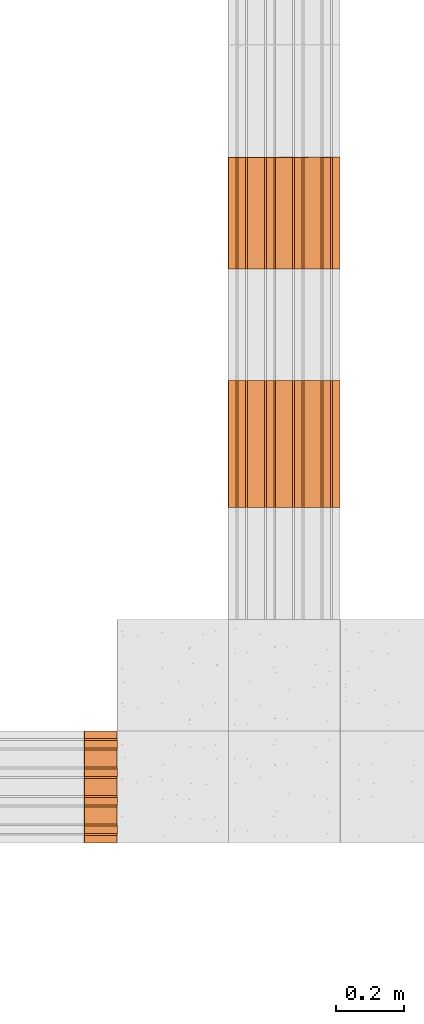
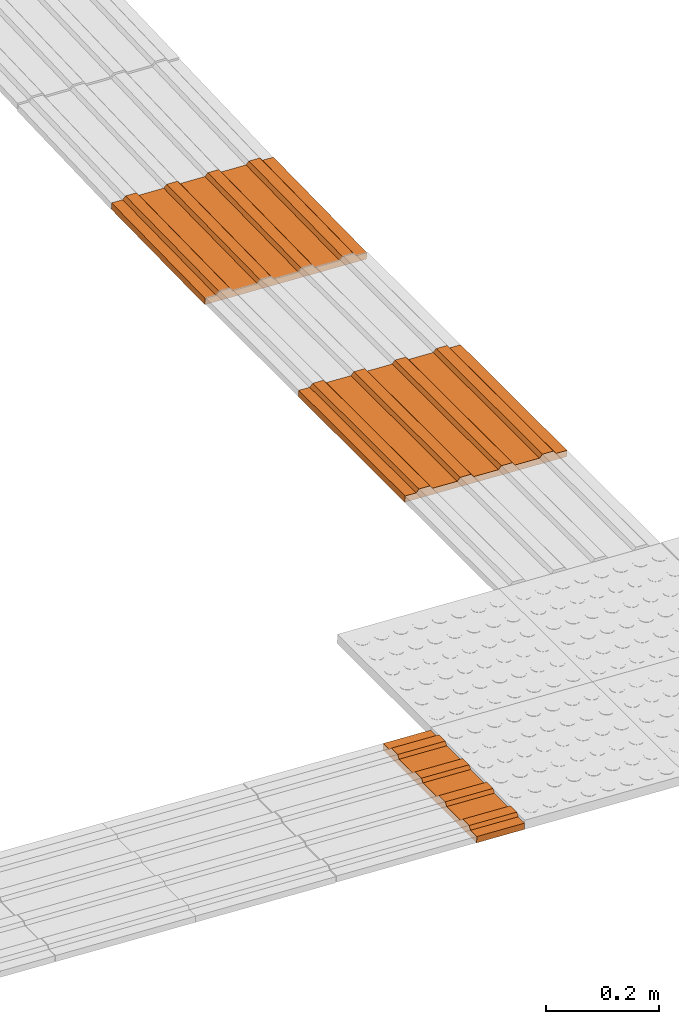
# One storey, part 229 of 237: 3 proxies.
"""IFC2X3 building model written with IfcOpenShell, lengths in millimetres."""

from ifc_helpers import new_model, entity, si_unit, converted_unit, derived_unit, money_unit, direction, frame, origin_with_axes, place, context, subcontext, project, spatial, open_shell, surface_model, type_object, element, save


model = new_model("IFC2X3")

# Units and contexts
model_context = context("Model", 3, precision=0.01, world=origin_with_axes(), true_north=direction((0.0, 1.0)))
body_context = subcontext(model_context, "Body", "Model", "MODEL_VIEW")
ifc_project = project(units=[si_unit("LENGTHUNIT", "METRE", prefix="MILLI"), si_unit("AREAUNIT", "SQUARE_METRE"), si_unit("VOLUMEUNIT", "CUBIC_METRE"), converted_unit("PLANEANGLEUNIT", "DEGREE", entity("IfcPlaneAngleMeasure", 0.0174532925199), si_unit("PLANEANGLEUNIT", "RADIAN"), dimensions=[0, 0, 0, 0, 0, 0, 0]), money_unit("USD"), converted_unit("TIMEUNIT", "Year", entity("IfcTimeMeasure", 31556926.0), si_unit("TIMEUNIT", "SECOND"), dimensions=[0, 0, 1, 0, 0, 0, 0]), si_unit("MASSUNIT", "GRAM", prefix="KILO"), si_unit("THERMODYNAMICTEMPERATUREUNIT", "DEGREE_CELSIUS"), si_unit("LUMINOUSINTENSITYUNIT", "LUMEN"), si_unit("ENERGYUNIT", "JOULE", prefix="MEGA"), derived_unit("THERMALCONDUCTANCEUNIT", [(si_unit("POWERUNIT", "WATT"), 1), (si_unit("LENGTHUNIT", "METRE"), -1), (si_unit("THERMODYNAMICTEMPERATUREUNIT", "KELVIN"), -1)]), derived_unit("SPECIFICHEATCAPACITYUNIT", [(si_unit("ENERGYUNIT", "JOULE"), 1), (si_unit("MASSUNIT", "GRAM", prefix="KILO"), -1), (si_unit("THERMODYNAMICTEMPERATUREUNIT", "KELVIN"), -1)]), derived_unit("MASSDENSITYUNIT", [(si_unit("MASSUNIT", "GRAM", prefix="KILO"), 1), (si_unit("VOLUMEUNIT", "CUBIC_METRE"), -1)])], contexts=[model_context])

# Site, building, storey
site_placement = place(None, origin_with_axes())
site = spatial("IfcSite", under=ifc_project, at=site_placement, Name="Local", CompositionType="ELEMENT")
building_placement = place(site_placement, origin_with_axes())
building = spatial("IfcBuilding", under=site, at=building_placement, Name="Construção", CompositionType="ELEMENT")
storey_placement = place(building_placement, origin_with_axes())
storey = spatial("IfcBuildingStorey", under=building, at=storey_placement, Name="Pavimento Térreo", CompositionType="ELEMENT", Elevation=0.0)

# Proxies
building_element_proxy_type = type_object("IfcBuildingElementProxyType", Name="Piso Direcional 27", PredefinedType="NOTDEFINED")
proxy_1_placement = place(storey_placement, frame((134866.285313, 10833.9341536, -7987.73027117), z_axis=(0.0, 0.0, 1.0), x_axis=(-1.0, 0.0, 0.0)))
element("IfcBuildingElementProxy", 1, at=proxy_1_placement, inside=storey, type_object=building_element_proxy_type, Name="Objeto-0055", context=body_context, shape_type="SurfaceModel", body=[
    surface_model("IfcShellBasedSurfaceModel", [(-0.210134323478, -47.3074862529, 4.02303628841), (96.8437110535, -47.3074862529, 9.09242733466), (96.4959666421, -41.7084356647, 15.7500183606), (-0.557878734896, -41.7084356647, 10.6806273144)], [open_shell([[[0, 1, 2, 3]]])]),
    surface_model("IfcShellBasedSurfaceModel", [(97.5391998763, -153.689447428, -4.22275471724), (97.5391998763, 176.654537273, -4.22275471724), (96.8437110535, 176.654537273, 9.09242733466), (96.8437110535, 154.258334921, 9.09242733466), (96.4959666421, 148.659284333, 15.7500183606), (96.4959666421, 126.26308198, 15.7500183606), (96.8437110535, 120.664031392, 9.09242733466), (96.8437110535, 70.2725760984, 9.09242733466), (96.4959666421, 64.6735255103, 15.7500183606), (96.4959666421, 42.2773231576, 15.7500183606), (96.8437110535, 36.6782725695, 9.09242733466), (96.8437110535, -13.7131827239, 9.09242733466), (96.4959666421, -19.3122333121, 15.7500183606), (96.4959666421, -41.7084356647, 15.7500183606), (96.8437110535, -47.3074862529, 9.09242733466), (96.8437110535, -97.6989415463, 9.09242733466), (96.4959666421, -103.297992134, 15.7500183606), (96.4959666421, -125.694194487, 15.7500183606), (96.8437110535, -131.293245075, 9.09242733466), (96.8437110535, -153.689447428, 9.09242733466)], [open_shell([[[0, 1, 2, 3, 4, 5, 6, 7, 8, 9, 10, 11, 12, 13, 14, 15, 16, 17, 18, 19]]])]),
    surface_model("IfcShellBasedSurfaceModel", [(-0.557878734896, -19.3122333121, 10.6806273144), (96.4959666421, -19.3122333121, 15.7500183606), (96.8437110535, -13.7131827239, 9.09242733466), (-0.210134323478, -13.7131827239, 4.02303628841)], [open_shell([[[0, 1, 2, 3]]])]),
    surface_model("IfcShellBasedSurfaceModel", [(-0.557878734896, -103.297992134, 10.6806273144), (96.4959666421, -103.297992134, 15.7500183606), (96.8437110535, -97.6989415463, 9.09242733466), (-0.210134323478, -97.6989415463, 4.02303628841)], [open_shell([[[0, 1, 2, 3]]])]),
    surface_model("IfcShellBasedSurfaceModel", [(-0.557878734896, 64.6735255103, 10.6806273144), (96.4959666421, 64.6735255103, 15.7500183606), (96.8437110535, 70.2725760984, 9.09242733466), (-0.210134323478, 70.2725760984, 4.02303628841)], [open_shell([[[0, 1, 2, 3]]])]),
    surface_model("IfcShellBasedSurfaceModel", [(-0.210134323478, 36.6782725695, 4.02303628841), (96.8437110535, 36.6782725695, 9.09242733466), (96.4959666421, 42.2773231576, 15.7500183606), (-0.557878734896, 42.2773231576, 10.6806273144)], [open_shell([[[0, 1, 2, 3]]])]),
    surface_model("IfcShellBasedSurfaceModel", [(-0.210134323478, -131.293245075, 4.02303628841), (96.8437110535, -131.293245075, 9.09242733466), (96.4959666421, -125.694194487, 15.7500183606), (-0.557878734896, -125.694194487, 10.6806273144)], [open_shell([[[0, 1, 2, 3]]])]),
    surface_model("IfcShellBasedSurfaceModel", [(-0.210134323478, 176.654537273, 4.02303628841), (-0.210134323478, 154.258334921, 4.02303628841), (96.8437110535, 154.258334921, 9.09242733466), (96.8437110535, 176.654537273, 9.09242733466)], [open_shell([[[0, 1, 2, 3]]])]),
    surface_model("IfcShellBasedSurfaceModel", [(-0.210134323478, 120.664031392, 4.02303628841), (96.8437110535, 120.664031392, 9.09242733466), (96.4959666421, 126.26308198, 15.7500183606), (-0.557878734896, 126.26308198, 10.6806273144)], [open_shell([[[0, 1, 2, 3]]])]),
    surface_model("IfcShellBasedSurfaceModel", [(-0.557878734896, 148.659284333, 10.6806273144), (96.4959666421, 148.659284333, 15.7500183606), (96.8437110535, 154.258334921, 9.09242733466), (-0.210134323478, 154.258334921, 4.02303628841)], [open_shell([[[0, 1, 2, 3]]])]),
    surface_model("IfcShellBasedSurfaceModel", [(-0.210134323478, 36.6782725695, 4.02303628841), (-0.210134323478, -13.7131827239, 4.02303628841), (96.8437110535, -13.7131827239, 9.09242733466), (96.8437110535, 36.6782725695, 9.09242733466)], [open_shell([[[0, 1, 2, 3]]])]),
    surface_model("IfcShellBasedSurfaceModel", [(-0.210134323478, 120.664031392, 4.02303628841), (-0.210134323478, 70.2725760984, 4.02303628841), (96.8437110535, 70.2725760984, 9.09242733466), (96.8437110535, 120.664031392, 9.09242733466)], [open_shell([[[0, 1, 2, 3]]])]),
    surface_model("IfcShellBasedSurfaceModel", [(-0.557878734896, 148.659284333, 10.6806273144), (-0.557878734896, 126.26308198, 10.6806273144), (96.4959666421, 126.26308198, 15.7500183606), (96.4959666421, 148.659284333, 15.7500183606)], [open_shell([[[0, 1, 2, 3]]])]),
    surface_model("IfcShellBasedSurfaceModel", [(-0.210134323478, 120.664031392, 4.02303628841), (-0.557878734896, 126.26308198, 10.6806273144), (-0.557878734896, 148.659284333, 10.6806273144), (-0.210134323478, 154.258334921, 4.02303628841), (-0.210134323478, 176.654537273, 4.02303628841), (0.48535449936, 176.654537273, -9.29214576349), (0.48535449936, -153.689447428, -9.29214576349), (-0.210134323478, -153.689447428, 4.02303628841), (-0.210134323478, -131.293245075, 4.02303628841), (-0.557878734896, -125.694194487, 10.6806273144), (-0.557878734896, -103.297992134, 10.6806273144), (-0.210134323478, -97.6989415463, 4.02303628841), (-0.210134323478, -47.3074862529, 4.02303628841), (-0.557878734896, -41.7084356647, 10.6806273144), (-0.557878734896, -19.3122333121, 10.6806273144), (-0.210134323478, -13.7131827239, 4.02303628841), (-0.210134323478, 36.6782725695, 4.02303628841), (-0.557878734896, 42.2773231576, 10.6806273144), (-0.557878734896, 64.6735255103, 10.6806273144), (-0.210134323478, 70.2725760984, 4.02303628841)], [open_shell([[[0, 1, 2, 3, 4, 5, 6, 7, 8, 9, 10, 11, 12, 13, 14, 15, 16, 17, 18, 19]]])]),
    surface_model("IfcShellBasedSurfaceModel", [(96.4959666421, -41.7084356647, 15.7500183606), (96.4959666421, -19.3122333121, 15.7500183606), (-0.557878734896, -19.3122333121, 10.6806273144), (-0.557878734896, -41.7084356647, 10.6806273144)], [open_shell([[[0, 1, 2, 3]]])]),
    surface_model("IfcShellBasedSurfaceModel", [(-0.210134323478, -47.3074862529, 4.02303628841), (-0.210134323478, -97.6989415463, 4.02303628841), (96.8437110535, -97.6989415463, 9.09242733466), (96.8437110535, -47.3074862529, 9.09242733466)], [open_shell([[[0, 1, 2, 3]]])]),
    surface_model("IfcShellBasedSurfaceModel", [(96.4959666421, 42.2773231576, 15.7500183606), (96.4959666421, 64.6735255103, 15.7500183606), (-0.557878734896, 64.6735255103, 10.6806273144), (-0.557878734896, 42.2773231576, 10.6806273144)], [open_shell([[[0, 1, 2, 3]]])]),
    surface_model("IfcShellBasedSurfaceModel", [(96.4959666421, -125.694194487, 15.7500183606), (96.4959666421, -103.297992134, 15.7500183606), (-0.557878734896, -103.297992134, 10.6806273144), (-0.557878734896, -125.694194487, 10.6806273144)], [open_shell([[[0, 1, 2, 3]]])]),
    surface_model("IfcShellBasedSurfaceModel", [(97.5391998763, 176.654537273, -4.22275471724), (0.48535449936, 176.654537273, -9.29214576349), (-0.210134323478, 176.654537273, 4.02303628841), (96.8437110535, 176.654537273, 9.09242733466)], [open_shell([[[0, 1, 2, 3]]])]),
    surface_model("IfcShellBasedSurfaceModel", [(97.5391998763, -153.689447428, -4.22275471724), (0.48535449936, -153.689447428, -9.29214576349), (0.48535449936, 176.654537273, -9.29214576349), (97.5391998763, 176.654537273, -4.22275471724)], [open_shell([[[0, 1, 2, 3]]])]),
    surface_model("IfcShellBasedSurfaceModel", [(96.8437110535, -153.689447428, 9.09242733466), (96.8437110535, -131.293245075, 9.09242733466), (-0.210134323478, -131.293245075, 4.02303628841), (-0.210134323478, -153.689447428, 4.02303628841)], [open_shell([[[0, 1, 2, 3]]])]),
    surface_model("IfcShellBasedSurfaceModel", [(0.48535449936, -153.689447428, -9.29214576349), (97.5391998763, -153.689447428, -4.22275471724), (96.8437110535, -153.689447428, 9.09242733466), (-0.210134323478, -153.689447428, 4.02303628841)], [open_shell([[[0, 1, 2, 3]]])]),
])
proxy_2_placement = place(storey_placement, frame((135348.0994, 12022.6060556, -8007.43350641), z_axis=(0.0, 0.0, 1.0), x_axis=(0.0, -1.0, 0.0)))
element("IfcBuildingElementProxy", 2, at=proxy_2_placement, inside=storey, type_object=building_element_proxy_type, Name="Objeto-0055", context=body_context, shape_type="SurfaceModel", body=[
    surface_model("IfcShellBasedSurfaceModel", [(0.0, -46.9837561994, 6.48810385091), (374.982454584, -46.9837561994, 6.48810385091), (374.982454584, -41.0504057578, 12.8539432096), (0.0, -41.0504057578, 12.8539432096)], [open_shell([[[0, 1, 2, 3]]])]),
    surface_model("IfcShellBasedSurfaceModel", [(374.982454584, -153.805759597, -1.28379652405), (374.982454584, 175.744996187, -18.4971448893), (374.982454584, 176.44048501, -5.18196283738), (374.982454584, 154.098060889, -4.01495616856), (374.982454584, 148.860199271, 2.9343865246), (374.982454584, 126.51777515, 4.10139319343), (374.982454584, 120.584424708, -2.26444616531), (374.982454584, 70.3139704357, 0.361318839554), (374.982454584, 65.0761088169, 7.31066153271), (374.982454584, 42.7336846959, 8.47766820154), (374.982454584, 36.8003342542, 2.1118288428), (374.982454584, -13.470120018, 4.73759384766), (374.982454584, -18.7079816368, 11.6869365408), (374.982454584, -41.0504057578, 12.8539432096), (374.982454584, -46.9837561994, 6.48810385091), (374.982454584, -97.2542104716, 9.11386885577), (374.982454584, -102.49207209, 16.0632115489), (374.982454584, -124.834496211, 17.2302182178), (374.982454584, -130.767846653, 10.864378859), (374.982454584, -153.110270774, 12.0313855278)], [open_shell([[[0, 1, 2, 3, 4, 5, 6, 7, 8, 9, 10, 11, 12, 13, 14, 15, 16, 17, 18, 19]]])]),
    surface_model("IfcShellBasedSurfaceModel", [(0.0, -18.7079816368, 11.6869365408), (374.982454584, -18.7079816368, 11.6869365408), (374.982454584, -13.470120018, 4.73759384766), (0.0, -13.470120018, 4.73759384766)], [open_shell([[[0, 1, 2, 3]]])]),
    surface_model("IfcShellBasedSurfaceModel", [(0.0, -102.49207209, 16.0632115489), (374.982454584, -102.49207209, 16.0632115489), (374.982454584, -97.2542104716, 9.11386885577), (0.0, -97.2542104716, 9.11386885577)], [open_shell([[[0, 1, 2, 3]]])]),
    surface_model("IfcShellBasedSurfaceModel", [(0.0, 65.0761088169, 7.31066153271), (374.982454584, 65.0761088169, 7.31066153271), (374.982454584, 70.3139704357, 0.361318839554), (0.0, 70.3139704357, 0.361318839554)], [open_shell([[[0, 1, 2, 3]]])]),
    surface_model("IfcShellBasedSurfaceModel", [(0.0, 36.8003342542, 2.1118288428), (374.982454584, 36.8003342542, 2.1118288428), (374.982454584, 42.7336846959, 8.47766820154), (0.0, 42.7336846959, 8.47766820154)], [open_shell([[[0, 1, 2, 3]]])]),
    surface_model("IfcShellBasedSurfaceModel", [(0.0, -130.767846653, 10.864378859), (374.982454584, -130.767846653, 10.864378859), (374.982454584, -124.834496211, 17.2302182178), (0.0, -124.834496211, 17.2302182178)], [open_shell([[[0, 1, 2, 3]]])]),
    surface_model("IfcShellBasedSurfaceModel", [(0.0, 176.44048501, -5.18196283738), (0.0, 154.098060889, -4.01495616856), (374.982454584, 154.098060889, -4.01495616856), (374.982454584, 176.44048501, -5.18196283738)], [open_shell([[[0, 1, 2, 3]]])]),
    surface_model("IfcShellBasedSurfaceModel", [(0.0, 120.584424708, -2.26444616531), (374.982454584, 120.584424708, -2.26444616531), (374.982454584, 126.51777515, 4.10139319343), (0.0, 126.51777515, 4.10139319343)], [open_shell([[[0, 1, 2, 3]]])]),
    surface_model("IfcShellBasedSurfaceModel", [(0.0, 148.860199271, 2.9343865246), (374.982454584, 148.860199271, 2.9343865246), (374.982454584, 154.098060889, -4.01495616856), (0.0, 154.098060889, -4.01495616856)], [open_shell([[[0, 1, 2, 3]]])]),
    surface_model("IfcShellBasedSurfaceModel", [(0.0, 36.8003342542, 2.1118288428), (0.0, -13.470120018, 4.73759384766), (374.982454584, -13.470120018, 4.73759384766), (374.982454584, 36.8003342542, 2.1118288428)], [open_shell([[[0, 1, 2, 3]]])]),
    surface_model("IfcShellBasedSurfaceModel", [(0.0, 120.584424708, -2.26444616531), (0.0, 70.3139704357, 0.361318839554), (374.982454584, 70.3139704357, 0.361318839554), (374.982454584, 120.584424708, -2.26444616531)], [open_shell([[[0, 1, 2, 3]]])]),
    surface_model("IfcShellBasedSurfaceModel", [(0.0, 148.860199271, 2.9343865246), (0.0, 126.51777515, 4.10139319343), (374.982454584, 126.51777515, 4.10139319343), (374.982454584, 148.860199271, 2.9343865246)], [open_shell([[[0, 1, 2, 3]]])]),
    surface_model("IfcShellBasedSurfaceModel", [(0.0, 120.584424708, -2.26444616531), (0.0, 126.51777515, 4.10139319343), (0.0, 148.860199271, 2.9343865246), (0.0, 154.098060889, -4.01495616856), (0.0, 176.44048501, -5.18196283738), (0.0, 175.744996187, -18.4971448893), (0.0, -153.805759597, -1.28379652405), (0.0, -153.110270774, 12.0313855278), (0.0, -130.767846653, 10.864378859), (0.0, -124.834496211, 17.2302182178), (0.0, -102.49207209, 16.0632115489), (0.0, -97.2542104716, 9.11386885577), (0.0, -46.9837561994, 6.48810385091), (0.0, -41.0504057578, 12.8539432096), (0.0, -18.7079816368, 11.6869365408), (0.0, -13.470120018, 4.73759384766), (0.0, 36.8003342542, 2.1118288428), (0.0, 42.7336846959, 8.47766820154), (0.0, 65.0761088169, 7.31066153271), (0.0, 70.3139704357, 0.361318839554)], [open_shell([[[0, 1, 2, 3, 4, 5, 6, 7, 8, 9, 10, 11, 12, 13, 14, 15, 16, 17, 18, 19]]])]),
    surface_model("IfcShellBasedSurfaceModel", [(374.982454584, -41.0504057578, 12.8539432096), (374.982454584, -18.7079816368, 11.6869365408), (0.0, -18.7079816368, 11.6869365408), (0.0, -41.0504057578, 12.8539432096)], [open_shell([[[0, 1, 2, 3]]])]),
    surface_model("IfcShellBasedSurfaceModel", [(0.0, -46.9837561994, 6.48810385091), (0.0, -97.2542104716, 9.11386885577), (374.982454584, -97.2542104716, 9.11386885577), (374.982454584, -46.9837561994, 6.48810385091)], [open_shell([[[0, 1, 2, 3]]])]),
    surface_model("IfcShellBasedSurfaceModel", [(374.982454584, 42.7336846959, 8.47766820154), (374.982454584, 65.0761088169, 7.31066153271), (0.0, 65.0761088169, 7.31066153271), (0.0, 42.7336846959, 8.47766820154)], [open_shell([[[0, 1, 2, 3]]])]),
    surface_model("IfcShellBasedSurfaceModel", [(374.982454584, -124.834496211, 17.2302182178), (374.982454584, -102.49207209, 16.0632115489), (0.0, -102.49207209, 16.0632115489), (0.0, -124.834496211, 17.2302182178)], [open_shell([[[0, 1, 2, 3]]])]),
    surface_model("IfcShellBasedSurfaceModel", [(374.982454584, 175.744996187, -18.4971448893), (0.0, 175.744996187, -18.4971448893), (0.0, 176.44048501, -5.18196283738), (374.982454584, 176.44048501, -5.18196283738)], [open_shell([[[0, 1, 2, 3]]])]),
    surface_model("IfcShellBasedSurfaceModel", [(374.982454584, -153.805759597, -1.28379652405), (0.0, -153.805759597, -1.28379652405), (0.0, 175.744996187, -18.4971448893), (374.982454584, 175.744996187, -18.4971448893)], [open_shell([[[0, 1, 2, 3]]])]),
    surface_model("IfcShellBasedSurfaceModel", [(374.982454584, -153.110270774, 12.0313855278), (374.982454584, -130.767846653, 10.864378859), (0.0, -130.767846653, 10.864378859), (0.0, -153.110270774, 12.0313855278)], [open_shell([[[0, 1, 2, 3]]])]),
    surface_model("IfcShellBasedSurfaceModel", [(0.0, -153.805759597, -1.28379652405), (374.982454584, -153.805759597, -1.28379652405), (374.982454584, -153.110270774, 12.0313855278), (0.0, -153.110270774, 12.0313855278)], [open_shell([[[0, 1, 2, 3]]])]),
])
proxy_3_placement = place(storey_placement, frame((135348.0994, 12682.4895278, -8004.09658464), z_axis=(0.0, 0.0, 1.0), x_axis=(0.0, -1.0, 0.0)))
element("IfcBuildingElementProxy", 3, at=proxy_3_placement, inside=storey, type_object=building_element_proxy_type, Name="Objeto-0055", context=body_context, shape_type="SurfaceModel", body=[
    surface_model("IfcShellBasedSurfaceModel", [(0.113233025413, -46.9837561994, 6.48711568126), (330.062972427, -46.9837561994, 0.727821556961), (330.174071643, -41.0504057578, 7.09269136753), (0.224332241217, -41.0504057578, 12.8519854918)], [open_shell([[[0, 1, 2, 3]]])]),
    surface_model("IfcShellBasedSurfaceModel", [(329.927334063, -153.805759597, -7.04289511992), (329.626919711, 175.744996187, -24.2536218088), (329.85930168, 176.44048501, -10.9404677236), (329.879668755, 154.098060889, -9.77363879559), (330.000951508, 148.860199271, -2.82535452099), (330.021318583, 126.51777515, -1.65852559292), (329.910219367, 120.584424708, -8.0233954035), (329.956045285, 70.3139704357, -5.39803031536), (330.077328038, 65.0761088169, 1.55025395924), (330.097695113, 42.7336846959, 2.7170828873), (329.986595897, 36.8003342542, -3.64778692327), (330.032421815, -13.470120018, -1.02242183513), (330.153704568, -18.7079816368, 5.92586243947), (330.174071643, -41.0504057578, 7.09269136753), (330.062972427, -46.9837561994, 0.727821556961), (330.108798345, -97.2542104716, 3.3531866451), (330.230081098, -102.49207209, 10.3014709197), (330.250448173, -124.834496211, 11.4682998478), (330.139348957, -130.767846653, 5.10343003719), (330.159716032, -153.110270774, 6.27025896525)], [open_shell([[[0, 1, 2, 3, 4, 5, 6, 7, 8, 9, 10, 11, 12, 13, 14, 15, 16, 17, 18, 19]]])]),
    surface_model("IfcShellBasedSurfaceModel", [(0.203965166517, -18.7079816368, 11.6851565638), (330.153704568, -18.7079816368, 5.92586243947), (330.032421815, -13.470120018, -1.02242183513), (0.0826824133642, -13.470120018, 4.73687228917)], [open_shell([[[0, 1, 2, 3]]])]),
    surface_model("IfcShellBasedSurfaceModel", [(0.28034169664, -102.49207209, 16.060765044), (330.230081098, -102.49207209, 10.3014709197), (330.108798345, -97.2542104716, 3.3531866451), (0.159058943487, -97.2542104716, 9.1124807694)], [open_shell([[[0, 1, 2, 3]]])]),
    surface_model("IfcShellBasedSurfaceModel", [(0.127588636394, 65.0761088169, 7.30954808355), (330.077328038, 65.0761088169, 1.55025395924), (329.956045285, 70.3139704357, -5.39803031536), (0.00630588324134, 70.3139704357, 0.361263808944)], [open_shell([[[0, 1, 2, 3]]])]),
    surface_model("IfcShellBasedSurfaceModel", [(0.0368564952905, 36.8003342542, 2.11150720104), (329.986595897, 36.8003342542, -3.64778692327), (330.097695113, 42.7336846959, 2.7170828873), (0.147955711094, 42.7336846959, 8.47637701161)], [open_shell([[[0, 1, 2, 3]]])]),
    surface_model("IfcShellBasedSurfaceModel", [(0.189609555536, -130.767846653, 10.8627241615), (330.139348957, -130.767846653, 5.10343003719), (330.250448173, -124.834496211, 11.4682998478), (0.300708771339, -124.834496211, 17.2275939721)], [open_shell([[[0, 1, 2, 3]]])]),
    surface_model("IfcShellBasedSurfaceModel", [(-0.0904377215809, 176.44048501, -5.18117359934), (-0.0700706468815, 154.098060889, -4.01434467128), (329.879668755, 154.098060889, -9.77363879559), (329.85930168, 176.44048501, -10.9404677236)], [open_shell([[[0, 1, 2, 3]]])]),
    surface_model("IfcShellBasedSurfaceModel", [(-0.0395200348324, 120.584424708, -2.26410127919), (329.910219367, 120.584424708, -8.0233954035), (330.021318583, 126.51777515, -1.65852559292), (0.0715791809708, 126.51777515, 4.10076853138)], [open_shell([[[0, 1, 2, 3]]])]),
    surface_model("IfcShellBasedSurfaceModel", [(0.0512121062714, 148.860199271, 2.93393960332), (330.000951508, 148.860199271, -2.82535452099), (329.879668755, 154.098060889, -9.77363879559), (-0.0700706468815, 154.098060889, -4.01434467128)], [open_shell([[[0, 1, 2, 3]]])]),
    surface_model("IfcShellBasedSurfaceModel", [(0.0368564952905, 36.8003342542, 2.11150720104), (0.0826824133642, -13.470120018, 4.73687228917), (330.032421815, -13.470120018, -1.02242183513), (329.986595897, 36.8003342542, -3.64778692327)], [open_shell([[[0, 1, 2, 3]]])]),
    surface_model("IfcShellBasedSurfaceModel", [(-0.0395200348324, 120.584424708, -2.26410127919), (0.00630588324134, 70.3139704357, 0.361263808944), (329.956045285, 70.3139704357, -5.39803031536), (329.910219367, 120.584424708, -8.0233954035)], [open_shell([[[0, 1, 2, 3]]])]),
    surface_model("IfcShellBasedSurfaceModel", [(0.0512121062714, 148.860199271, 2.93393960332), (0.0715791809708, 126.51777515, 4.10076853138), (330.021318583, 126.51777515, -1.65852559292), (330.000951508, 148.860199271, -2.82535452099)], [open_shell([[[0, 1, 2, 3]]])]),
    surface_model("IfcShellBasedSurfaceModel", [(-0.0395200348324, 120.584424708, -2.26410127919), (0.0715791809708, 126.51777515, 4.10076853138), (0.0512121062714, 148.860199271, 2.93393960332), (-0.0700706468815, 154.098060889, -4.01434467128), (-0.0904377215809, 176.44048501, -5.18117359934), (-0.322819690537, 175.744996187, -18.4943276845), (-0.0224053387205, -153.805759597, -1.28360099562), (0.209976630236, -153.110270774, 12.0295530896), (0.189609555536, -130.767846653, 10.8627241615), (0.300708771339, -124.834496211, 17.2275939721), (0.28034169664, -102.49207209, 16.060765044), (0.159058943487, -97.2542104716, 9.1124807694), (0.113233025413, -46.9837561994, 6.48711568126), (0.224332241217, -41.0504057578, 12.8519854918), (0.203965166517, -18.7079816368, 11.6851565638), (0.0826824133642, -13.470120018, 4.73687228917), (0.0368564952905, 36.8003342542, 2.11150720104), (0.147955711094, 42.7336846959, 8.47637701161), (0.127588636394, 65.0761088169, 7.30954808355), (0.00630588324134, 70.3139704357, 0.361263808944)], [open_shell([[[0, 1, 2, 3, 4, 5, 6, 7, 8, 9, 10, 11, 12, 13, 14, 15, 16, 17, 18, 19]]])]),
    surface_model("IfcShellBasedSurfaceModel", [(330.174071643, -41.0504057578, 7.09269136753), (330.153704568, -18.7079816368, 5.92586243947), (0.203965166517, -18.7079816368, 11.6851565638), (0.224332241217, -41.0504057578, 12.8519854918)], [open_shell([[[0, 1, 2, 3]]])]),
    surface_model("IfcShellBasedSurfaceModel", [(0.113233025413, -46.9837561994, 6.48711568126), (0.159058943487, -97.2542104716, 9.1124807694), (330.108798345, -97.2542104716, 3.3531866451), (330.062972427, -46.9837561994, 0.727821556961)], [open_shell([[[0, 1, 2, 3]]])]),
    surface_model("IfcShellBasedSurfaceModel", [(330.097695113, 42.7336846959, 2.7170828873), (330.077328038, 65.0761088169, 1.55025395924), (0.127588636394, 65.0761088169, 7.30954808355), (0.147955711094, 42.7336846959, 8.47637701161)], [open_shell([[[0, 1, 2, 3]]])]),
    surface_model("IfcShellBasedSurfaceModel", [(330.250448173, -124.834496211, 11.4682998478), (330.230081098, -102.49207209, 10.3014709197), (0.28034169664, -102.49207209, 16.060765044), (0.300708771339, -124.834496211, 17.2275939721)], [open_shell([[[0, 1, 2, 3]]])]),
    surface_model("IfcShellBasedSurfaceModel", [(329.626919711, 175.744996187, -24.2536218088), (-0.322819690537, 175.744996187, -18.4943276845), (-0.0904377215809, 176.44048501, -5.18117359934), (329.85930168, 176.44048501, -10.9404677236)], [open_shell([[[0, 1, 2, 3]]])]),
    surface_model("IfcShellBasedSurfaceModel", [(329.927334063, -153.805759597, -7.04289511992), (-0.0224053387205, -153.805759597, -1.28360099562), (-0.322819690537, 175.744996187, -18.4943276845), (329.626919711, 175.744996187, -24.2536218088)], [open_shell([[[0, 1, 2, 3]]])]),
    surface_model("IfcShellBasedSurfaceModel", [(330.159716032, -153.110270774, 6.27025896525), (330.139348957, -130.767846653, 5.10343003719), (0.189609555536, -130.767846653, 10.8627241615), (0.209976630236, -153.110270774, 12.0295530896)], [open_shell([[[0, 1, 2, 3]]])]),
    surface_model("IfcShellBasedSurfaceModel", [(-0.0224053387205, -153.805759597, -1.28360099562), (329.927334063, -153.805759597, -7.04289511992), (330.159716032, -153.110270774, 6.27025896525), (0.209976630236, -153.110270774, 12.0295530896)], [open_shell([[[0, 1, 2, 3]]])]),
])

save(model, "model.ifc")
